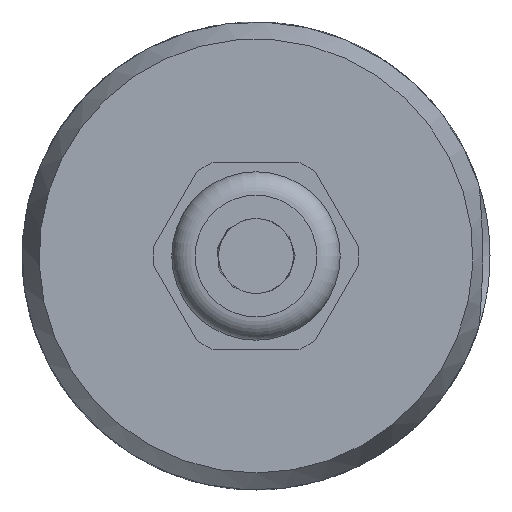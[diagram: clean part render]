
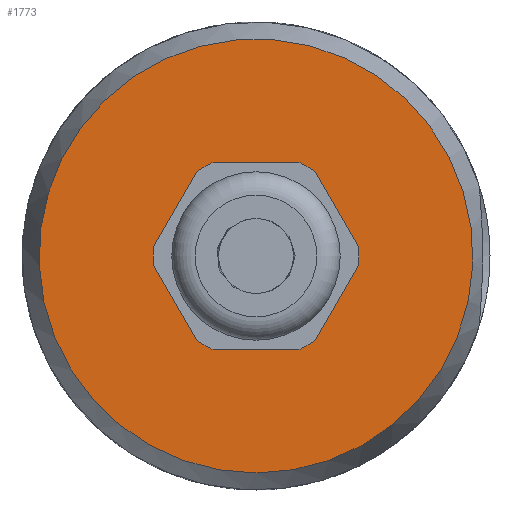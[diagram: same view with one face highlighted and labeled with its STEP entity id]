
A CAD part, left-side view. The second image highlights one B-rep face of the part: STEP entity #1773.
In plain terms, the highlighted planar face has unit normal (-1, 0, 0).
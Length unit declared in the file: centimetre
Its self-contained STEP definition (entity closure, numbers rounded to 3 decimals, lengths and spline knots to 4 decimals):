
#824=PLANE('',#1866);
#857=VERTEX_POINT('',#2248);
#878=VERTEX_POINT('',#2442);
#981=CIRCLE('',#1852,0.725);
#989=CIRCLE('',#1865,2.318);
#1026=EDGE_CURVE('',#857,#857,#981,.T.);
#1048=EDGE_CURVE('',#878,#878,#989,.T.);
#1230=ORIENTED_EDGE('',*,*,#1026,.T.);
#1231=ORIENTED_EDGE('',*,*,#1048,.F.);
#1561=EDGE_LOOP('',(#1230));
#1562=EDGE_LOOP('',(#1231));
#1669=FACE_BOUND('',#1561,.T.);
#1670=FACE_BOUND('',#1562,.T.);
#1773=ADVANCED_FACE('',(#1669,#1670),#824,.F.);
#1852=AXIS2_PLACEMENT_3D('',#2247,#1970,#1971);
#1865=AXIS2_PLACEMENT_3D('',#2441,#2000,#2001);
#1866=AXIS2_PLACEMENT_3D('',#2443,#2002,$);
#1970=DIRECTION('',(1.,0.,0.));
#1971=DIRECTION('',(0.,0.725,0.));
#2000=DIRECTION('',(1.,0.,0.));
#2001=DIRECTION('',(0.,0.,2.318));
#2002=DIRECTION('',(1.,0.,0.));
#2247=CARTESIAN_POINT('',(-3.135,0.,0.));
#2248=CARTESIAN_POINT('',(-3.135,0.725,0.));
#2441=CARTESIAN_POINT('',(-3.135,0.,0.));
#2442=CARTESIAN_POINT('',(-3.135,0.,-2.318));
#2443=CARTESIAN_POINT('',(-3.135,0.,0.));
